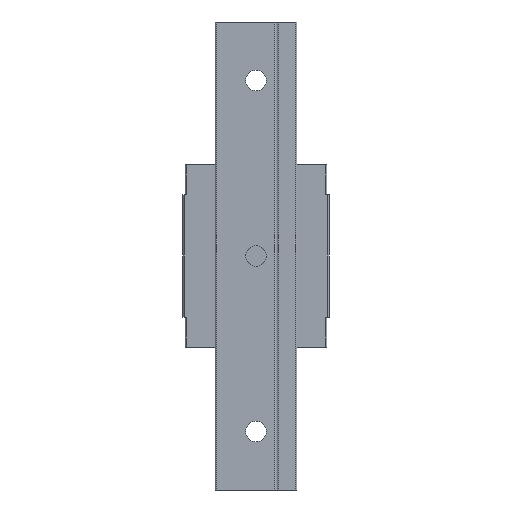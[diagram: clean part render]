
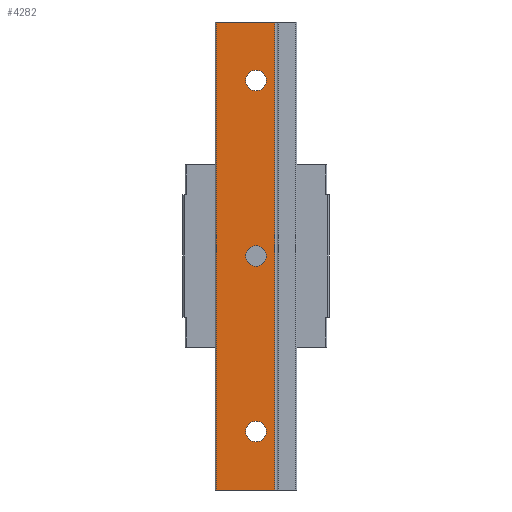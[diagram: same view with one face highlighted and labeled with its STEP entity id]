
A CAD part, front view. The second image highlights one B-rep face of the part: STEP entity #4282.
In plain terms, the highlighted planar face has unit normal (0, -1, 0).
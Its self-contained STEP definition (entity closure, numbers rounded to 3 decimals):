
#165 = AXIS2_PLACEMENT_3D ( 'NONE', #761, #1668, #4038 ) ;
#473 = CARTESIAN_POINT ( 'NONE',  ( 0., 0., -1.75 ) ) ;
#530 = CARTESIAN_POINT ( 'NONE',  ( 3.2, 0., 40. ) ) ;
#761 = CARTESIAN_POINT ( 'NONE',  ( 0., 0., 0. ) ) ;
#826 = AXIS2_PLACEMENT_3D ( 'NONE', #9567, #3866, #5387 ) ;
#992 = CARTESIAN_POINT ( 'NONE',  ( 0., 0., 28.25 ) ) ;
#1014 = CIRCLE ( 'NONE', #8999, 1.75 ) ;
#1150 = DIRECTION ( 'NONE',  ( 0., -1., 0. ) ) ;
#1176 = VECTOR ( 'NONE', #4576, 1000. ) ;
#1219 = ORIENTED_EDGE ( 'NONE', *, *, #5270, .F. ) ;
#1280 = ORIENTED_EDGE ( 'NONE', *, *, #3025, .T. ) ;
#1397 = CARTESIAN_POINT ( 'NONE',  ( -6.8, 0., 40. ) ) ;
#1451 = ORIENTED_EDGE ( 'NONE', *, *, #9701, .F. ) ;
#1463 = FACE_OUTER_BOUND ( 'NONE', #4567, .T. ) ;
#1668 = DIRECTION ( 'NONE',  ( 0., -1., 0. ) ) ;
#1921 = ORIENTED_EDGE ( 'NONE', *, *, #3318, .F. ) ;
#2258 = AXIS2_PLACEMENT_3D ( 'NONE', #10578, #4788, #5559 ) ;
#2349 = CARTESIAN_POINT ( 'NONE',  ( 0., 0., -30. ) ) ;
#2390 = VERTEX_POINT ( 'NONE', #8854 ) ;
#2430 = CARTESIAN_POINT ( 'NONE',  ( -6.8, 0., -40. ) ) ;
#2431 = LINE ( 'NONE', #9084, #5090 ) ;
#2853 = AXIS2_PLACEMENT_3D ( 'NONE', #10659, #2974, #8921 ) ;
#2974 = DIRECTION ( 'NONE',  ( 0., 1., 0. ) ) ;
#3025 = EDGE_CURVE ( 'NONE', #6299, #9620, #7934, .T. ) ;
#3132 = VERTEX_POINT ( 'NONE', #2430 ) ;
#3147 = FACE_BOUND ( 'NONE', #8042, .T. ) ;
#3249 = VERTEX_POINT ( 'NONE', #4622 ) ;
#3297 = VERTEX_POINT ( 'NONE', #8250 ) ;
#3318 = EDGE_CURVE ( 'NONE', #5318, #3249, #8680, .T. ) ;
#3329 = EDGE_CURVE ( 'NONE', #9045, #3132, #4028, .T. ) ;
#3500 = CIRCLE ( 'NONE', #8902, 1.75 ) ;
#3866 = DIRECTION ( 'NONE',  ( 0., -1., 0. ) ) ;
#3933 = FACE_BOUND ( 'NONE', #4698, .T. ) ;
#4028 = LINE ( 'NONE', #6545, #7110 ) ;
#4038 = DIRECTION ( 'NONE',  ( 0., 0., -1. ) ) ;
#4282 = ADVANCED_FACE ( 'NONE', ( #10602, #3147, #3933, #1463 ), #4806, .F. ) ;
#4465 = ORIENTED_EDGE ( 'NONE', *, *, #7556, .F. ) ;
#4567 = EDGE_LOOP ( 'NONE', ( #1280, #8971, #10005, #1219 ) ) ;
#4576 = DIRECTION ( 'NONE',  ( 0., 0., 1. ) ) ;
#4609 = CIRCLE ( 'NONE', #826, 1.75 ) ;
#4622 = CARTESIAN_POINT ( 'NONE',  ( 0., 0., 1.75 ) ) ;
#4698 = EDGE_LOOP ( 'NONE', ( #1451, #9850 ) ) ;
#4788 = DIRECTION ( 'NONE',  ( 0., -1., 0. ) ) ;
#4806 = PLANE ( 'NONE',  #2853 ) ;
#4915 = DIRECTION ( 'NONE',  ( 0., 0., -1. ) ) ;
#5057 = VERTEX_POINT ( 'NONE', #992 ) ;
#5090 = VECTOR ( 'NONE', #4915, 1000. ) ;
#5270 = EDGE_CURVE ( 'NONE', #6299, #9045, #2431, .T. ) ;
#5318 = VERTEX_POINT ( 'NONE', #473 ) ;
#5386 = CARTESIAN_POINT ( 'NONE',  ( -6.8, 0., 40. ) ) ;
#5387 = DIRECTION ( 'NONE',  ( 0., 0., -1. ) ) ;
#5559 = DIRECTION ( 'NONE',  ( 0., 0., -1. ) ) ;
#5691 = CARTESIAN_POINT ( 'NONE',  ( 3.2, 0., -40. ) ) ;
#6094 = EDGE_CURVE ( 'NONE', #3249, #5318, #8149, .T. ) ;
#6118 = DIRECTION ( 'NONE',  ( 0., 0., -1. ) ) ;
#6277 = CARTESIAN_POINT ( 'NONE',  ( 0., 0., -28.25 ) ) ;
#6278 = VECTOR ( 'NONE', #7213, 1000. ) ;
#6299 = VERTEX_POINT ( 'NONE', #530 ) ;
#6304 = EDGE_CURVE ( 'NONE', #3132, #9620, #7141, .T. ) ;
#6545 = CARTESIAN_POINT ( 'NONE',  ( 3.5, 0., -40. ) ) ;
#6804 = CARTESIAN_POINT ( 'NONE',  ( 0., 0., -30. ) ) ;
#6917 = EDGE_LOOP ( 'NONE', ( #7381, #4465 ) ) ;
#7008 = EDGE_CURVE ( 'NONE', #5057, #3297, #4609, .T. ) ;
#7110 = VECTOR ( 'NONE', #7315, 1000. ) ;
#7141 = LINE ( 'NONE', #5386, #1176 ) ;
#7213 = DIRECTION ( 'NONE',  ( -1., 0., 0. ) ) ;
#7315 = DIRECTION ( 'NONE',  ( -1., 0., 0. ) ) ;
#7381 = ORIENTED_EDGE ( 'NONE', *, *, #7008, .F. ) ;
#7556 = EDGE_CURVE ( 'NONE', #3297, #5057, #3500, .T. ) ;
#7791 = AXIS2_PLACEMENT_3D ( 'NONE', #6804, #1150, #9542 ) ;
#7881 = ORIENTED_EDGE ( 'NONE', *, *, #6094, .F. ) ;
#7934 = LINE ( 'NONE', #9746, #6278 ) ;
#7969 = VERTEX_POINT ( 'NONE', #6277 ) ;
#8042 = EDGE_LOOP ( 'NONE', ( #1921, #7881 ) ) ;
#8072 = DIRECTION ( 'NONE',  ( 0., 0., -1. ) ) ;
#8127 = DIRECTION ( 'NONE',  ( 0., -1., 0. ) ) ;
#8149 = CIRCLE ( 'NONE', #165, 1.75 ) ;
#8250 = CARTESIAN_POINT ( 'NONE',  ( 0., 0., 31.75 ) ) ;
#8316 = EDGE_CURVE ( 'NONE', #7969, #2390, #10748, .T. ) ;
#8680 = CIRCLE ( 'NONE', #2258, 1.75 ) ;
#8854 = CARTESIAN_POINT ( 'NONE',  ( 0., 0., -31.75 ) ) ;
#8902 = AXIS2_PLACEMENT_3D ( 'NONE', #9429, #10382, #6118 ) ;
#8921 = DIRECTION ( 'NONE',  ( 1., 0., 0. ) ) ;
#8971 = ORIENTED_EDGE ( 'NONE', *, *, #6304, .F. ) ;
#8999 = AXIS2_PLACEMENT_3D ( 'NONE', #2349, #8127, #8072 ) ;
#9045 = VERTEX_POINT ( 'NONE', #5691 ) ;
#9084 = CARTESIAN_POINT ( 'NONE',  ( 3.2, 0., 40. ) ) ;
#9429 = CARTESIAN_POINT ( 'NONE',  ( 0., 0., 30. ) ) ;
#9542 = DIRECTION ( 'NONE',  ( 0., 0., -1. ) ) ;
#9567 = CARTESIAN_POINT ( 'NONE',  ( 0., 0., 30. ) ) ;
#9620 = VERTEX_POINT ( 'NONE', #1397 ) ;
#9701 = EDGE_CURVE ( 'NONE', #2390, #7969, #1014, .T. ) ;
#9746 = CARTESIAN_POINT ( 'NONE',  ( 3.5, 0., 40. ) ) ;
#9850 = ORIENTED_EDGE ( 'NONE', *, *, #8316, .F. ) ;
#10005 = ORIENTED_EDGE ( 'NONE', *, *, #3329, .F. ) ;
#10382 = DIRECTION ( 'NONE',  ( 0., -1., 0. ) ) ;
#10578 = CARTESIAN_POINT ( 'NONE',  ( 0., 0., 0. ) ) ;
#10602 = FACE_BOUND ( 'NONE', #6917, .T. ) ;
#10659 = CARTESIAN_POINT ( 'NONE',  ( -7., 0., 40. ) ) ;
#10748 = CIRCLE ( 'NONE', #7791, 1.75 ) ;
